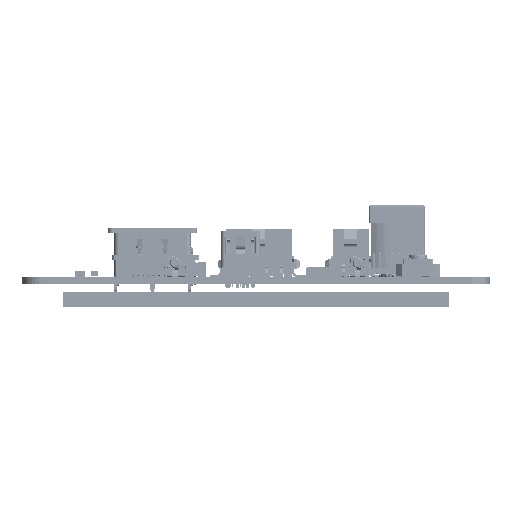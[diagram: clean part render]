
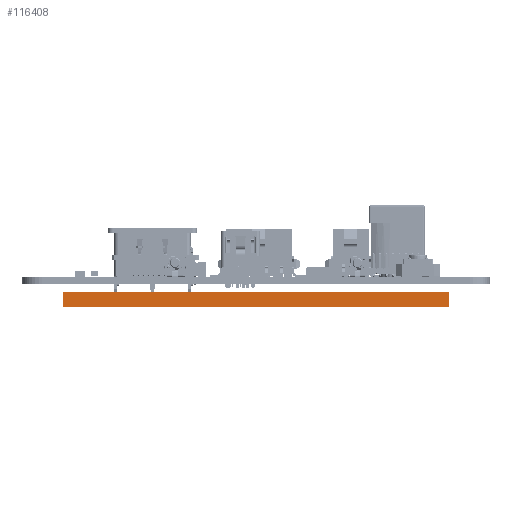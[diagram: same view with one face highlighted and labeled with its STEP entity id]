
A CAD part, left-side view. The second image highlights one B-rep face of the part: STEP entity #116408.
In plain terms, the highlighted planar face has unit normal (-1, 0, 0) as drawn and (1, 0, 0) by its records, which use the part's own axes.
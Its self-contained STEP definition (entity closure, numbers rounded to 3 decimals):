
#20051 = DIRECTION ( 'NONE',  ( 0., 0., 1. ) ) ;
#51414 = PLANE ( 'NONE',  #478739 ) ;
#51789 = VECTOR ( 'NONE', #20051, 1000. ) ;
#53006 = CARTESIAN_POINT ( 'NONE',  ( 60.35, -37.9, 1.4 ) ) ;
#55453 = ORIENTED_EDGE ( 'NONE', *, *, #89402, .T. ) ;
#62668 = EDGE_CURVE ( 'NONE', #272279, #460799, #114219, .T. ) ;
#68810 = FACE_OUTER_BOUND ( 'NONE', #507012, .T. ) ;
#74305 = CARTESIAN_POINT ( 'NONE',  ( 60.35, -37.9, -1.4 ) ) ;
#83273 = ORIENTED_EDGE ( 'NONE', *, *, #216277, .F. ) ;
#89402 = EDGE_CURVE ( 'NONE', #460799, #293170, #519135, .T. ) ;
#102881 = LINE ( 'NONE', #471144, #600601 ) ;
#114219 = LINE ( 'NONE', #229386, #573880 ) ;
#116408 = ADVANCED_FACE ( 'NONE', ( #68810 ), #51414, .T. ) ;
#121007 = DIRECTION ( 'NONE',  ( 0., 0., 1. ) ) ;
#152637 = ORIENTED_EDGE ( 'NONE', *, *, #62668, .T. ) ;
#162580 = ORIENTED_EDGE ( 'NONE', *, *, #625101, .F. ) ;
#196711 = DIRECTION ( 'NONE',  ( 1., 0., 0. ) ) ;
#213363 = CARTESIAN_POINT ( 'NONE',  ( 60.35, 37.9, 1.4 ) ) ;
#216277 = EDGE_CURVE ( 'NONE', #272279, #571624, #102881, .T. ) ;
#216772 = DIRECTION ( 'NONE',  ( 0., 1., 0. ) ) ;
#229386 = CARTESIAN_POINT ( 'NONE',  ( 60.35, 37.9, -1.4 ) ) ;
#233863 = VECTOR ( 'NONE', #216772, 1000. ) ;
#239000 = CARTESIAN_POINT ( 'NONE',  ( 60.35, 37.9, -1.4 ) ) ;
#267224 = CARTESIAN_POINT ( 'NONE',  ( 60.35, 37.9, 1.4 ) ) ;
#272279 = VERTEX_POINT ( 'NONE', #74305 ) ;
#277628 = DIRECTION ( 'NONE',  ( 0., 1., 0. ) ) ;
#293170 = VERTEX_POINT ( 'NONE', #213363 ) ;
#295644 = DIRECTION ( 'NONE',  ( 0., 1., 0. ) ) ;
#460799 = VERTEX_POINT ( 'NONE', #524485 ) ;
#471144 = CARTESIAN_POINT ( 'NONE',  ( 60.35, -37.9, -1.4 ) ) ;
#478739 = AXIS2_PLACEMENT_3D ( 'NONE', #239000, #196711, #295644 ) ;
#507012 = EDGE_LOOP ( 'NONE', ( #55453, #162580, #83273, #152637 ) ) ;
#519135 = LINE ( 'NONE', #603733, #51789 ) ;
#524485 = CARTESIAN_POINT ( 'NONE',  ( 60.35, 37.9, -1.4 ) ) ;
#542910 = LINE ( 'NONE', #267224, #233863 ) ;
#571624 = VERTEX_POINT ( 'NONE', #53006 ) ;
#573880 = VECTOR ( 'NONE', #277628, 1000. ) ;
#600601 = VECTOR ( 'NONE', #121007, 1000. ) ;
#603733 = CARTESIAN_POINT ( 'NONE',  ( 60.35, 37.9, -1.4 ) ) ;
#625101 = EDGE_CURVE ( 'NONE', #571624, #293170, #542910, .T. ) ;
